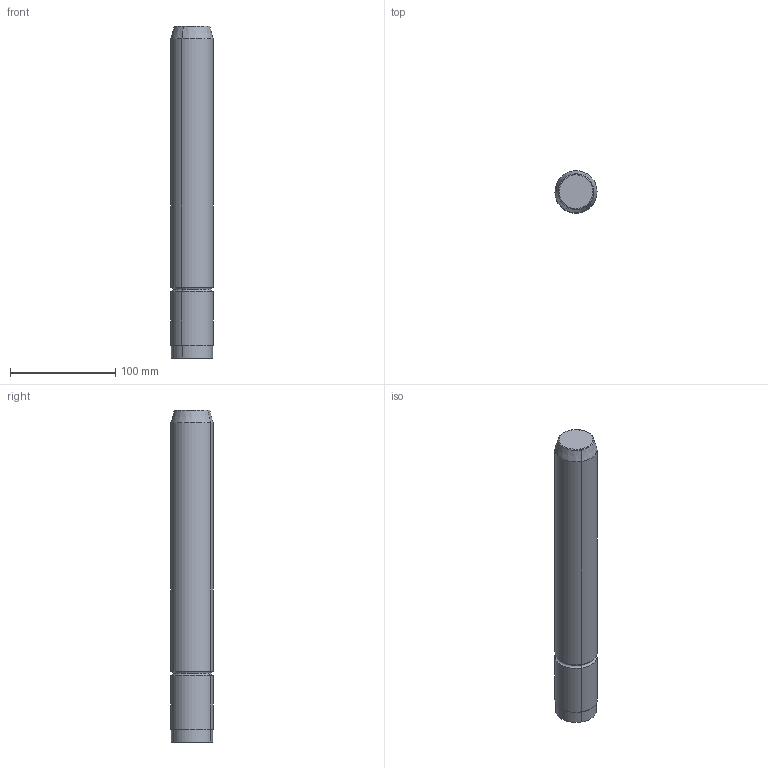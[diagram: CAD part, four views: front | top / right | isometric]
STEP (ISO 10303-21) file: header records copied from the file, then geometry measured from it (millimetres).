
FILE_DESCRIPTION(('CATIA V5 STEP Exchange'),'2;1');
FILE_NAME('C:\Users\Utente\Desktop\IO LAVORO\3D X SITO CF\X SITO\M104\M104-40x315.stp','2020-12-26T21:26:21+00:00',('none'),('none'),'CATIA Version 5 Release 20 GA (IN-10)','CATIA V5 STEP AP203','none');
FILE_SCHEMA(('CONFIG_CONTROL_DESIGN'));
Length unit declared in the file: millimetre
Products named in the file (1): M104-40x315
Bounding box: 39.99 x 39.99 x 315 mm (x, y, z)
Volume: 391958.2 mm3; surface area: 41837.5 mm2
Topology: 1 solids, 1 shells, 17 faces, 32 edges, 18 vertices
Faces by surface type: cylinder 6, torus 6, plane 3, cone 2
Entity records: 438 total; most frequent: CARTESIAN_POINT 66, ORIENTED_EDGE 64, DIRECTION 62, AXIS2_PLACEMENT_3D 40, EDGE_CURVE 32, CIRCLE 24, EDGE_LOOP 18, VERTEX_POINT 18
